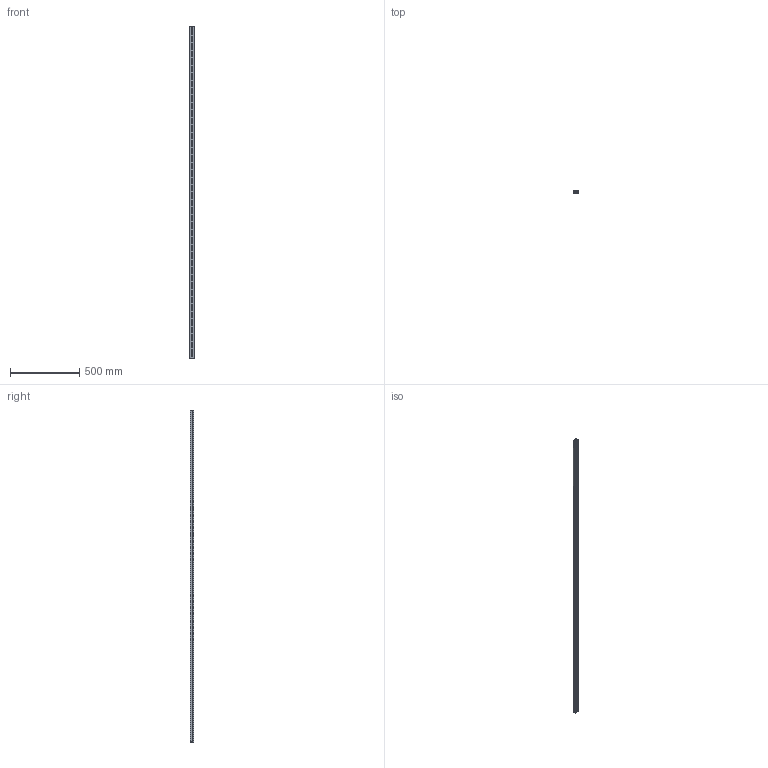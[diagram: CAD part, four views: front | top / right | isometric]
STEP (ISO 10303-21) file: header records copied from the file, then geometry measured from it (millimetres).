
FILE_DESCRIPTION (( 'STEP AP203' ), '1' );
FILE_NAME ('Linearführung_-_LFS-12-10 - L=2396.step', '2011-07-19T09:14:55', ( 'HI' ), ( '' ), 'SwSTEP 2.0', 'SolidWorks 2010', '' );
FILE_SCHEMA (( 'CONFIG_CONTROL_DESIGN' ));
Length unit declared in the file: millimetre
Products named in the file (1): Linearführung_-_LFS-12-10 - L=2396
Bounding box: 36 x 24.5 x 2396 mm (x, y, z)
Volume: 1543372.9 mm3; surface area: 591951.5 mm2
Topology: 1 solids, 1 shells, 1070 faces, 2832 edges, 1854 vertices
Faces by surface type: cylinder 505, plane 373, cone 192
Entity records: 44651 total; most frequent: CARTESIAN_POINT 17781, ORIENTED_EDGE 5664, DIRECTION 5420, EDGE_CURVE 2832, AXIS2_PLACEMENT_3D 2093, VERTEX_POINT 1854, EDGE_LOOP 1456, LINE 1234
